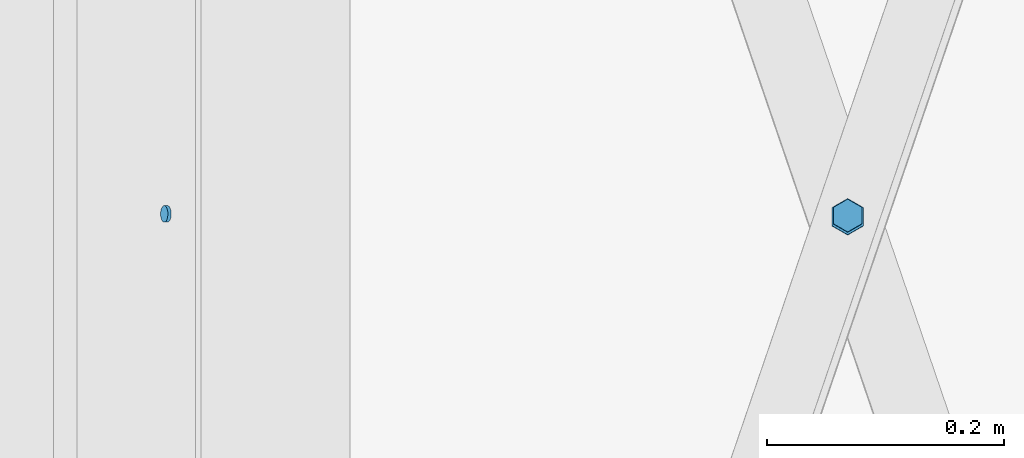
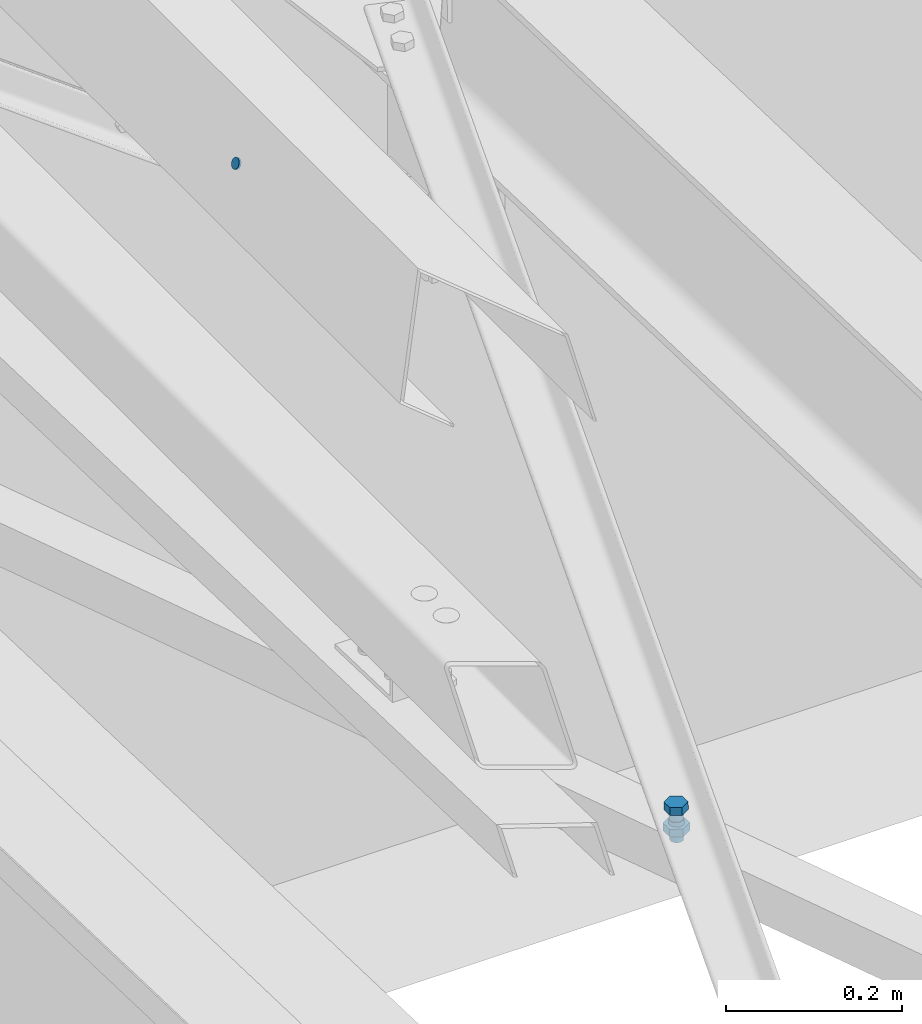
# One storey, part 323 of 362: 2 mechanical fasteners.
"""IFC2X3 building model written with IfcOpenShell, lengths in millimetres."""

from ifc_helpers import new_model, si_unit, frame, origin_with_axes, origin_2d_with_axis, place, context, subcontext, project, spatial, polyline, circle, outline, extrude, source, transform, mapped, material, type_object, element, save


model = new_model("IFC2X3")

# Units and contexts
model_context = context("Model", 3, precision=1e-05, world=origin_with_axes())
body_context = subcontext(model_context, "Body", "Model", "MODEL_VIEW")
ifc_project = project(units=[si_unit("LENGTHUNIT", "METRE", prefix="MILLI"), si_unit("AREAUNIT", "SQUARE_METRE"), si_unit("VOLUMEUNIT", "CUBIC_METRE"), si_unit("MASSUNIT", "GRAM", prefix="KILO"), si_unit("TIMEUNIT", "SECOND"), si_unit("PLANEANGLEUNIT", "RADIAN"), si_unit("SOLIDANGLEUNIT", "STERADIAN"), si_unit("THERMODYNAMICTEMPERATUREUNIT", "DEGREE_CELSIUS"), si_unit("LUMINOUSINTENSITYUNIT", "LUMEN")], contexts=[model_context])

# Site, building, storey
site_placement = place(None, origin_with_axes())
site = spatial("IfcSite", under=ifc_project, at=site_placement, Name="Undefined", CompositionType="ELEMENT")
building_placement = place(site_placement, origin_with_axes())
building = spatial("IfcBuilding", under=site, at=building_placement, Name="Undefined", CompositionType="ELEMENT")
storey_placement = place(building_placement, origin_with_axes())
storey = spatial("IfcBuildingStorey", under=building, at=storey_placement, Name="Undefined", CompositionType="ELEMENT", Elevation=0.0)

# Mechanical fasteners
ifc_material_1 = material(Name="6.8")
mechanical_fastener_type = type_object("IfcMechanicalFastenerType", Name="Bolt assembly")
shared_shape_1 = source(origin_with_axes(), body_context, "Body", "SweptSolid", [
    extrude(circle(Radius=7.0, at=origin_2d_with_axis()), frame((0.0, 0.0, 0.0), z_axis=(0.0, 1.0, 0.0), x_axis=(1.0, 0.0, 0.0)), (0.0, 0.0, 1.0), 3.1),
])
mechanical_fastener_1_placement = place(storey_placement, frame((38403.4787428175, 5700.0, 8852.76597264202), z_axis=(0.0, -1.0, 0.0), x_axis=(-0.441220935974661, 0.0, -0.89739850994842)))
element("IfcMechanicalFastener", 1, at=mechanical_fastener_1_placement, inside=storey, type_object=mechanical_fastener_type, material=ifc_material_1, Name="Bolt assembly", NominalDiameter=12.0, NominalLength=3.0, context=body_context, shape_type="MappedRepresentation", body=[
    mapped(shared_shape_1, transform((0.0, 0.0, 0.0))),
])
ifc_material_2 = material(Name="8.8-SB-ZINGUE")
shared_shape_2 = source(origin_with_axes(), body_context, "Body", "SweptSolid", [
    extrude(circle(Radius=9.0, at=origin_2d_with_axis()), frame((0.0, 2.90264712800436, 0.0), z_axis=(0.0, 1.0, 0.0), x_axis=(1.0, 0.0, 0.0)), (0.0, 0.0, 1.0), 6.1),
    extrude(circle(Radius=9.0, at=origin_2d_with_axis()), frame((0.0, -8.89729795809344, 0.0), z_axis=(0.0, 1.0, 0.0), x_axis=(1.0, 0.0, 0.0)), (0.0, 0.0, 1.0), 6.0),
    extrude(outline(polyline([(13.85640646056, 0.0), (6.92820323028, 12.0000000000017), (-6.92820323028, 12.0000000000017), (-13.85640646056, 0.0), (-6.92820323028, -12.0000000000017), (6.92820323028, -12.0000000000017), (13.85640646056, 0.0)])), frame((0.0, -19.5572979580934, 0.0), z_axis=(0.0, 1.0, 0.0), x_axis=(1.0, 0.0, 0.0)), (0.0, 0.0, 1.0), 10.56),
    extrude(circle(Radius=8.0, at=origin_2d_with_axis()), frame((0.0, -8.99729795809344, 0.0), z_axis=(0.0, 1.0, 0.0), x_axis=(1.0, 0.0, 0.0)), (0.0, 0.0, 1.0), 40.0),
    extrude(outline(polyline([(15.3344231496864, 0.0), (7.6672115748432, 13.2800000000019), (-7.6672115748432, 13.2800000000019), (-15.3344231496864, 0.0), (-7.6672115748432, -13.2800000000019), (7.6672115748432, -13.2800000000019), (15.3344231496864, 0.0)])), frame((0.0, 9.00264712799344, 0.0), z_axis=(0.0, 1.0, 0.0), x_axis=(1.0, 0.0, 0.0)), (0.0, 0.0, 1.0), 10.56),
])
mechanical_fastener_2_placement = place(storey_placement, frame((38980.0000151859, 5698.02022801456, 7747.87177638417), z_axis=(-1.0, 0.0, 0.0), x_axis=(3.14103090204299e-11, 0.999506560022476, -0.0314107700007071)))
element("IfcMechanicalFastener", 2, at=mechanical_fastener_2_placement, inside=storey, type_object=mechanical_fastener_type, material=ifc_material_2, Name="Bolt assembly", NominalDiameter=16.0, NominalLength=40.0, context=body_context, shape_type="MappedRepresentation", body=[
    mapped(shared_shape_2, transform((0.0, 0.0, 0.0))),
])

save(model, "model.ifc")
